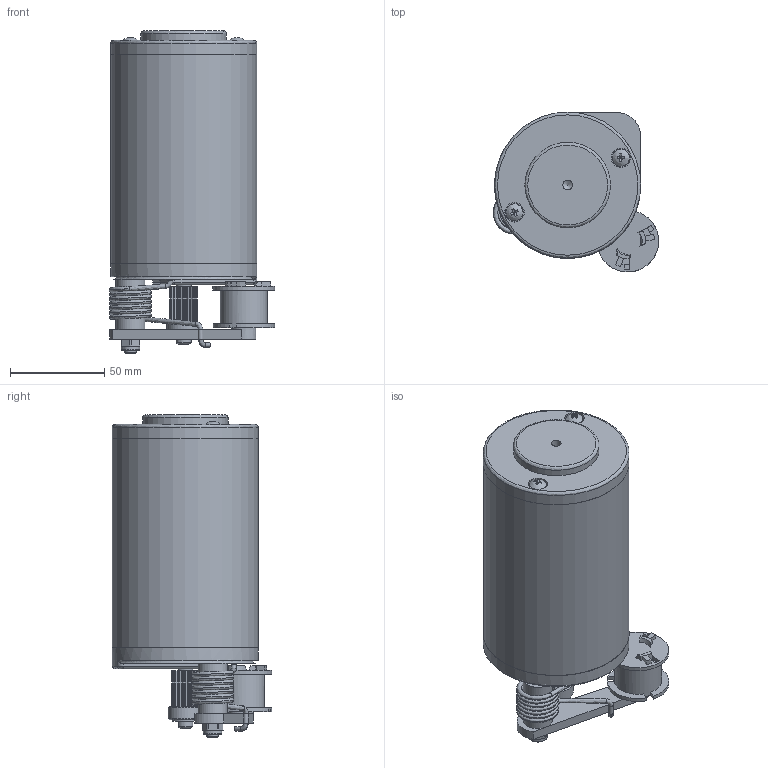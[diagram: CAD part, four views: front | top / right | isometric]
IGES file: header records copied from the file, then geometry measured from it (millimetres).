
Global section: file name: No Iges File Name specified; native system: AutoDesk Inventor R6.0; preprocessor: AutoDesk Inventor Iges Exporter R6.0; author: No Author specified; organization: No Organization specified; date: 20060118.213424; units: millimetre
Bounding box: 87.72 x 84.64 x 171 mm (x, y, z)
Surface area: 73120.7 mm2 (no closed solid volume)
Topology: 0 solids, 0 shells, 352 faces, 1680 edges, 1624 vertices
Faces by surface type: plane 175, revolution 141, bspline 36
